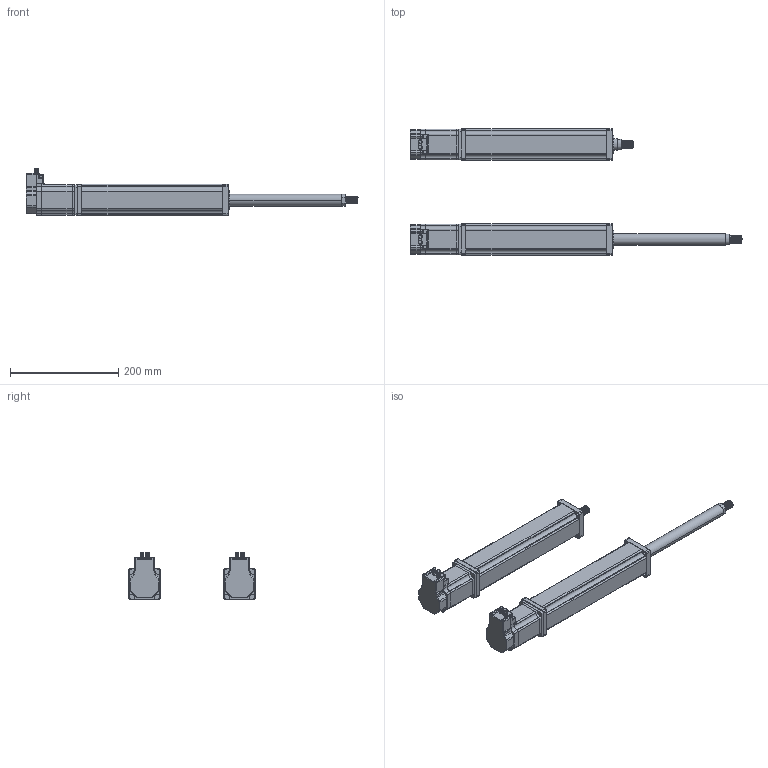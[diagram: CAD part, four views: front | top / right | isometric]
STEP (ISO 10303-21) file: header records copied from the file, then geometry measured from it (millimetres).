
FILE_DESCRIPTION(('STEP AP214'),'1');
FILE_NAME('\Tsurumi-main\3d_dad2\Servo_Motor\tmp0.STEP',' ',(' '),(' '),'XStep 1.0',' ',' ');
FILE_SCHEMA(('automotive_design'));
Length unit declared in the file: millimetre
Bounding box: 612.5 x 233.23 x 88.11 mm (x, y, z)
Volume: 2326769.4 mm3; surface area: 301054 mm2
Topology: 48 solids, 48 shells, 1828 faces, 5014 edges, 3286 vertices
Faces by surface type: plane 1250, cylinder 470, bspline 60, torus 36, sphere 8, cone 4
Entity records: 112259 total; most frequent: CARTESIAN_POINT 49708, ORIENTED_EDGE 9996, DIRECTION 9460, EDGE_CURVE 4998, LINE 3900, VECTOR 3900, VERTEX_POINT 3286, AXIS2_PLACEMENT_3D 2780
